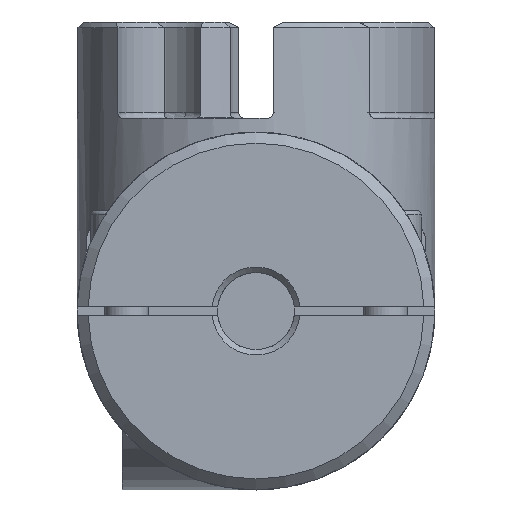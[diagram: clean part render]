
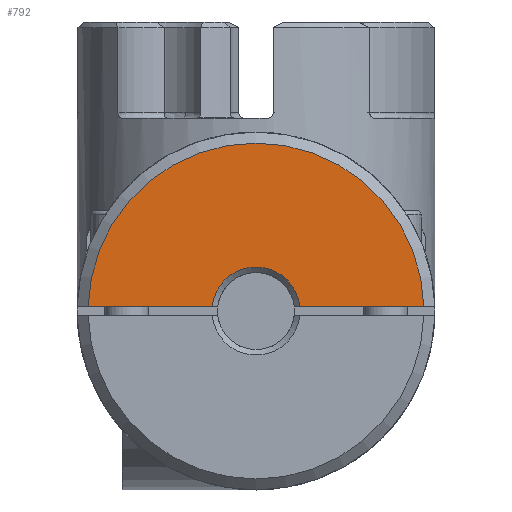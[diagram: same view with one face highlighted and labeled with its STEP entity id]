
A CAD part, front view. The second image highlights one B-rep face of the part: STEP entity #792.
In plain terms, the highlighted planar face has unit normal (0, -1, 0) as drawn and (0, 0, -1) by its records, which use the part's own axes.
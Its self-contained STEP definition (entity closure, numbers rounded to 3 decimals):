
#792 = ADVANCED_FACE( '', ( #1561 ), #1562, .T. );
#1561 = FACE_OUTER_BOUND( '', #2212, .T. );
#1562 = PLANE( '', #2213 );
#2212 = EDGE_LOOP( '', ( #3130, #3131, #3132, #3133 ) );
#2213 = AXIS2_PLACEMENT_3D( '', #3134, #3135, #3136 );
#3130 = ORIENTED_EDGE( '', *, *, #5165, .F. );
#3131 = ORIENTED_EDGE( '', *, *, #5176, .T. );
#3132 = ORIENTED_EDGE( '', *, *, #5169, .F. );
#3133 = ORIENTED_EDGE( '', *, *, #5160, .T. );
#3134 = CARTESIAN_POINT( '', ( 0., 0., 0. ) );
#3135 = DIRECTION( '', ( 0., 0., -1. ) );
#3136 = DIRECTION( '', ( -1., 0., 0. ) );
#5160 = EDGE_CURVE( '', #5924, #5925, #5926, .F. );
#5165 = EDGE_CURVE( '', #5932, #5925, #5934, .T. );
#5169 = EDGE_CURVE( '', #5924, #5940, #5941, .T. );
#5176 = EDGE_CURVE( '', #5932, #5940, #5951, .T. );
#5924 = VERTEX_POINT( '', #6992 );
#5925 = VERTEX_POINT( '', #6993 );
#5926 = CIRCLE( '', #6994, 8. );
#5932 = VERTEX_POINT( '', #7006 );
#5934 = LINE( '', #7011, #7012 );
#5940 = VERTEX_POINT( '', #7020 );
#5941 = LINE( '', #7021, #7022 );
#5951 = CIRCLE( '', #7037, 30.5 );
#6992 = CARTESIAN_POINT( '', ( -7.965, -0.75, 0. ) );
#6993 = CARTESIAN_POINT( '', ( 7.965, -0.75, 0. ) );
#6994 = AXIS2_PLACEMENT_3D( '', #8440, #8441, #8442 );
#7006 = CARTESIAN_POINT( '', ( 30.491, -0.75, 0. ) );
#7011 = CARTESIAN_POINT( '', ( 32.5, -0.75, 0. ) );
#7012 = VECTOR( '', #8446, 1000. );
#7020 = CARTESIAN_POINT( '', ( -30.491, -0.75, 0. ) );
#7021 = CARTESIAN_POINT( '', ( 32.5, -0.75, 0. ) );
#7022 = VECTOR( '', #8452, 1000. );
#7037 = AXIS2_PLACEMENT_3D( '', #8464, #8465, #8466 );
#8440 = CARTESIAN_POINT( '', ( 0., 0., 0. ) );
#8441 = DIRECTION( '', ( 0., 0., -1. ) );
#8442 = DIRECTION( '', ( -1., 0., 0. ) );
#8446 = DIRECTION( '', ( -1., 0., 0. ) );
#8452 = DIRECTION( '', ( -1., 0., 0. ) );
#8464 = CARTESIAN_POINT( '', ( 0., 0., 0. ) );
#8465 = DIRECTION( '', ( 0., 0., -1. ) );
#8466 = DIRECTION( '', ( -1., 0., 0. ) );
